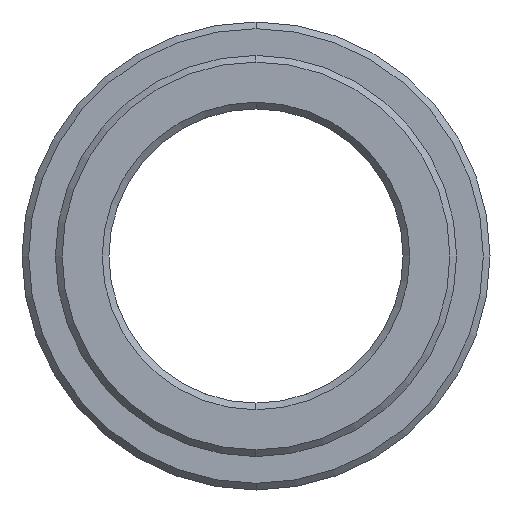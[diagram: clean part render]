
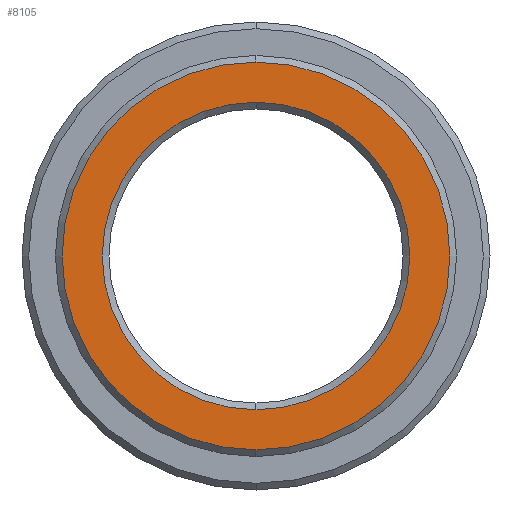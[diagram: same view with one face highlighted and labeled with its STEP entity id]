
A CAD part, left-side view. The second image highlights one B-rep face of the part: STEP entity #8105.
In plain terms, the highlighted planar face has unit normal (-1, 0, 0).
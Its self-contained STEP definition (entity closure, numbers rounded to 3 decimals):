
#5282=CARTESIAN_POINT('',(-8.,0.,
0.));
#5283=DIRECTION('',(1.,0.,0.));
#5284=DIRECTION('',(0.,0.,-1.));
#5285=AXIS2_PLACEMENT_3D('',#5282,#5283,#5284);
#5287=CARTESIAN_POINT('',(-8.,0.,0.));
#5288=DIRECTION('',(1.,0.,0.));
#5289=DIRECTION('',(0.,0.,1.));
#5290=AXIS2_PLACEMENT_3D('',#5287,#5288,#5289);
#5292=CARTESIAN_POINT('',(-8.,0.,0.));
#5293=DIRECTION('',(1.,0.,0.));
#5294=DIRECTION('',(0.,0.,-1.));
#5295=AXIS2_PLACEMENT_3D('',#5292,#5293,#5294);
#5297=CARTESIAN_POINT('',(-8.,0.,
0.));
#5298=DIRECTION('',(1.,0.,0.));
#5299=DIRECTION('',(0.,0.,1.));
#5300=AXIS2_PLACEMENT_3D('',#5297,#5298,#5299);
#5656=CARTESIAN_POINT('',(-8.,0.,-11.5));
#5657=CARTESIAN_POINT('',(-8.,0.,11.5));
#5658=VERTEX_POINT('',#5656);
#5659=VERTEX_POINT('',#5657);
#5664=CARTESIAN_POINT('',(-8.,0.,-14.5));
#5665=CARTESIAN_POINT('',(-8.,0.,14.5));
#5666=VERTEX_POINT('',#5664);
#5667=VERTEX_POINT('',#5665);
#8090=CARTESIAN_POINT('',(-8.,0.,0.));
#8091=DIRECTION('',(1.,0.,0.));
#8092=DIRECTION('',(0.,0.,1.));
#8093=AXIS2_PLACEMENT_3D('',#8090,#8091,#8092);
#8094=PLANE('',#8093);
#8095=ORIENTED_EDGE('',*,*,#8072,.T.);
#8096=ORIENTED_EDGE('',*,*,#8057,.T.);
#8097=EDGE_LOOP('',(#8095,#8096));
#8098=FACE_OUTER_BOUND('',#8097,.F.);
#8100=ORIENTED_EDGE('',*,*,#8099,.F.);
#8102=ORIENTED_EDGE('',*,*,#8101,.F.);
#8103=EDGE_LOOP('',(#8100,#8102));
#8104=FACE_BOUND('',#8103,.F.);
#8105=ADVANCED_FACE('',(#8098,#8104),#8094,.F.);
#5286=CIRCLE('',#5285,14.5);
#5291=CIRCLE('',#5290,14.5);
#5296=CIRCLE('',#5295,11.5);
#5301=CIRCLE('',#5300,11.5);
#8057=EDGE_CURVE('',#5667,#5666,#5291,.T.);
#8072=EDGE_CURVE('',#5666,#5667,#5286,.T.);
#8099=EDGE_CURVE('',#5658,#5659,#5296,.T.);
#8101=EDGE_CURVE('',#5659,#5658,#5301,.T.);
